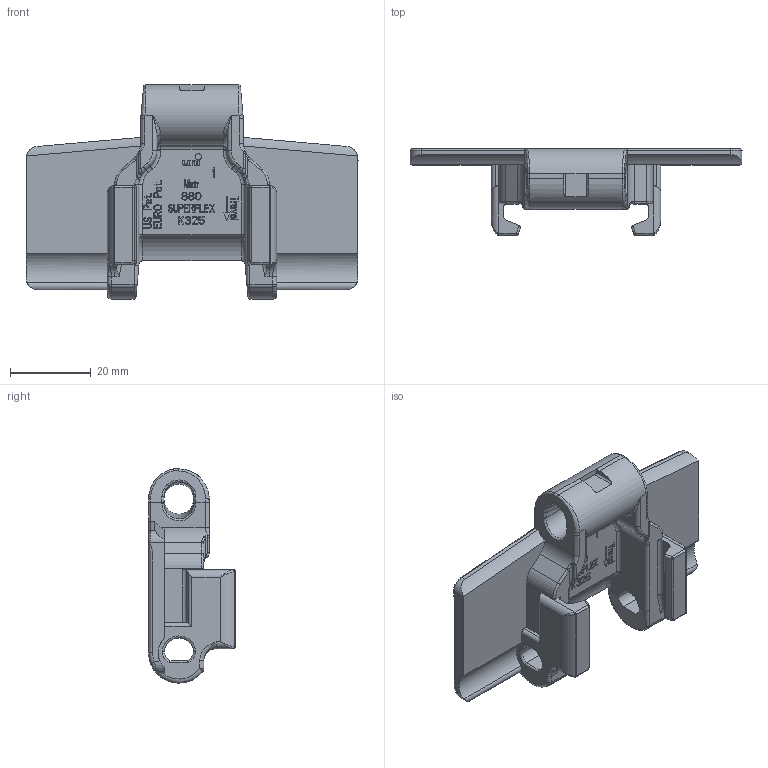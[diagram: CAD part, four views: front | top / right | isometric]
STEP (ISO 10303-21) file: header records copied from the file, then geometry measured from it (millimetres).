
FILE_DESCRIPTION((''),'2;1');
FILE_NAME('P1002','2012-08-08T',('mth'),(''),'PRO/ENGINEER BY PARAMETRIC TECHNOLOGY CORPORATION, 2012130','PRO/ENGINEER BY PARAMETRIC TECHNOLOGY CORPORATION, 2012130','');
FILE_SCHEMA(('AUTOMOTIVE_DESIGN { 1 0 10303 214 1 1 1 1 }'));
Products named in the file (1): P1002
Bounding box: 82.3 x 21.5 x 53.1 mm (x, y, z)
Volume: 19369.3 mm3; surface area: 11059.2 mm2
Topology: 1 solids, 1 shells, 1514 faces, 4192 edges, 2738 vertices
Faces by surface type: plane 1267, cylinder 137, bspline 56, torus 42, sphere 10, cone 2
Entity records: 57326 total; most frequent: CARTESIAN_POINT 18742, ORIENTED_EDGE 8384, DIRECTION 7159, EDGE_CURVE 4192, VECTOR 3727, LINE 3727, VERTEX_POINT 2738, AXIS2_PLACEMENT_3D 1716
